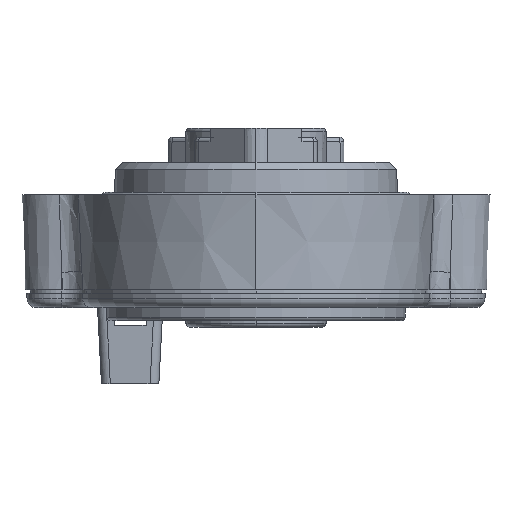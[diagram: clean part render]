
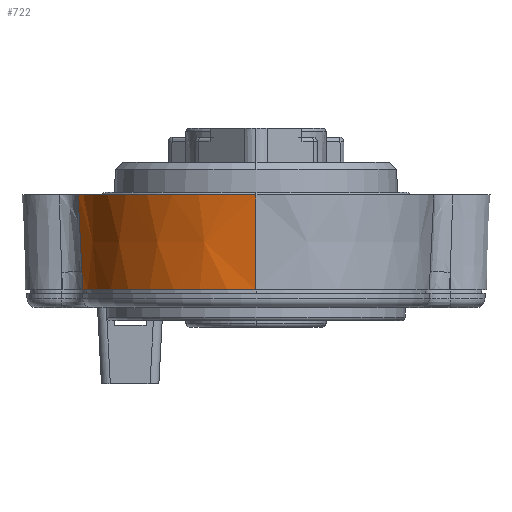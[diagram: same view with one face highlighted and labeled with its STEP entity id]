
A CAD part, left-side view. The second image highlights one B-rep face of the part: STEP entity #722.
In plain terms, the highlighted conical face has half-angle 3 degrees and reference radius 20.25 mm.
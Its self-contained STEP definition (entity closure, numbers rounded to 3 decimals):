
#722 = ADVANCED_FACE ( 'NONE', ( #9161 ), #12307, .T. ) ;
#1163 = EDGE_LOOP ( 'NONE', ( #31314, #16760, #8119, #16925, #21482 ) ) ;
#1181 = DIRECTION ( 'NONE',  ( 0., 0., 1. ) ) ;
#1918 = EDGE_CURVE ( 'NONE', #28859, #18277, #22618, .T. ) ;
#2833 = DIRECTION ( 'NONE',  ( 0., 0., -1. ) ) ;
#5825 = DIRECTION ( 'NONE',  ( -1., 0., 0. ) ) ;
#6801 = DIRECTION ( 'NONE',  ( -1., 0., 0. ) ) ;
#7492 = VECTOR ( 'NONE', #24747, 1000. ) ;
#8119 = ORIENTED_EDGE ( 'NONE', *, *, #30854, .T. ) ;
#8275 = CARTESIAN_POINT ( 'NONE',  ( -109.086, -0.535, 3.155 ) ) ;
#8335 = CARTESIAN_POINT ( 'NONE',  ( -129.336, -0.535, 3.155 ) ) ;
#9161 = FACE_OUTER_BOUND ( 'NONE', #1163, .T. ) ;
#11971 = B_SPLINE_CURVE_WITH_KNOTS ( 'NONE', 3,
 ( #14537, #41411, #45359, #21807 ),
 .UNSPECIFIED., .F., .F.,
 ( 4, 4 ),
 ( 0., 0.009 ),
 .UNSPECIFIED. ) ;
#12307 = CONICAL_SURFACE ( 'NONE', #13980, 20.25, 0.052 ) ;
#13311 = CARTESIAN_POINT ( 'NONE',  ( -110.85, 19.144, -6.239 ) ) ;
#13980 = AXIS2_PLACEMENT_3D ( 'NONE', #33106, #1181, #5825 ) ;
#14537 = CARTESIAN_POINT ( 'NONE',  ( -111.137, 19.611, 3.155 ) ) ;
#16760 = ORIENTED_EDGE ( 'NONE', *, *, #37857, .T. ) ;
#16925 = ORIENTED_EDGE ( 'NONE', *, *, #35058, .T. ) ;
#17320 = LINE ( 'NONE', #8335, #7492 ) ;
#18277 = VERTEX_POINT ( 'NONE', #44076 ) ;
#19987 = CARTESIAN_POINT ( 'NONE',  ( -111.137, 19.611, 3.155 ) ) ;
#20273 = VERTEX_POINT ( 'NONE', #41722 ) ;
#20567 = CARTESIAN_POINT ( 'NONE',  ( -110.872, 19.178, -5.561 ) ) ;
#21482 = ORIENTED_EDGE ( 'NONE', *, *, #29842, .T. ) ;
#21807 = CARTESIAN_POINT ( 'NONE',  ( -110.872, 19.178, -5.561 ) ) ;
#22618 = CIRCLE ( 'NONE', #22997, 19.687 ) ;
#22997 = AXIS2_PLACEMENT_3D ( 'NONE', #39457, #2833, #6801 ) ;
#24389 = CARTESIAN_POINT ( 'NONE',  ( -110.828, 19.11, -6.917 ) ) ;
#24747 = DIRECTION ( 'NONE',  ( -0.052, 0., 0.999 ) ) ;
#27022 = AXIS2_PLACEMENT_3D ( 'NONE', #8275, #43771, #48059 ) ;
#28498 = CARTESIAN_POINT ( 'NONE',  ( -110.807, 19.076, -7.595 ) ) ;
#28859 = VERTEX_POINT ( 'NONE', #41066 ) ;
#29842 = EDGE_CURVE ( 'NONE', #37706, #18277, #46450, .T. ) ;
#30854 = EDGE_CURVE ( 'NONE', #20273, #40447, #31319, .T. ) ;
#31314 = ORIENTED_EDGE ( 'NONE', *, *, #1918, .F. ) ;
#31319 = CIRCLE ( 'NONE', #27022, 20.25 ) ;
#33106 = CARTESIAN_POINT ( 'NONE',  ( -109.086, -0.535, 3.155 ) ) ;
#35058 = EDGE_CURVE ( 'NONE', #40447, #37706, #11971, .T. ) ;
#37706 = VERTEX_POINT ( 'NONE', #50951 ) ;
#37857 = EDGE_CURVE ( 'NONE', #28859, #20273, #17320, .T. ) ;
#39457 = CARTESIAN_POINT ( 'NONE',  ( -109.086, -0.535, -7.595 ) ) ;
#40447 = VERTEX_POINT ( 'NONE', #19987 ) ;
#41066 = CARTESIAN_POINT ( 'NONE',  ( -128.773, -0.535, -7.595 ) ) ;
#41411 = CARTESIAN_POINT ( 'NONE',  ( -111.052, 19.467, 0.25 ) ) ;
#41722 = CARTESIAN_POINT ( 'NONE',  ( -129.336, -0.535, 3.155 ) ) ;
#43771 = DIRECTION ( 'NONE',  ( 0., 0., -1. ) ) ;
#44076 = CARTESIAN_POINT ( 'NONE',  ( -110.807, 19.076, -7.595 ) ) ;
#45359 = CARTESIAN_POINT ( 'NONE',  ( -110.964, 19.322, -2.656 ) ) ;
#46450 = B_SPLINE_CURVE_WITH_KNOTS ( 'NONE', 3,
 ( #20567, #13311, #24389, #28498 ),
 .UNSPECIFIED., .F., .F.,
 ( 4, 4 ),
 ( 0.009, 0.011 ),
 .UNSPECIFIED. ) ;
#48059 = DIRECTION ( 'NONE',  ( -1., 0., 0. ) ) ;
#50951 = CARTESIAN_POINT ( 'NONE',  ( -110.872, 19.178, -5.561 ) ) ;
